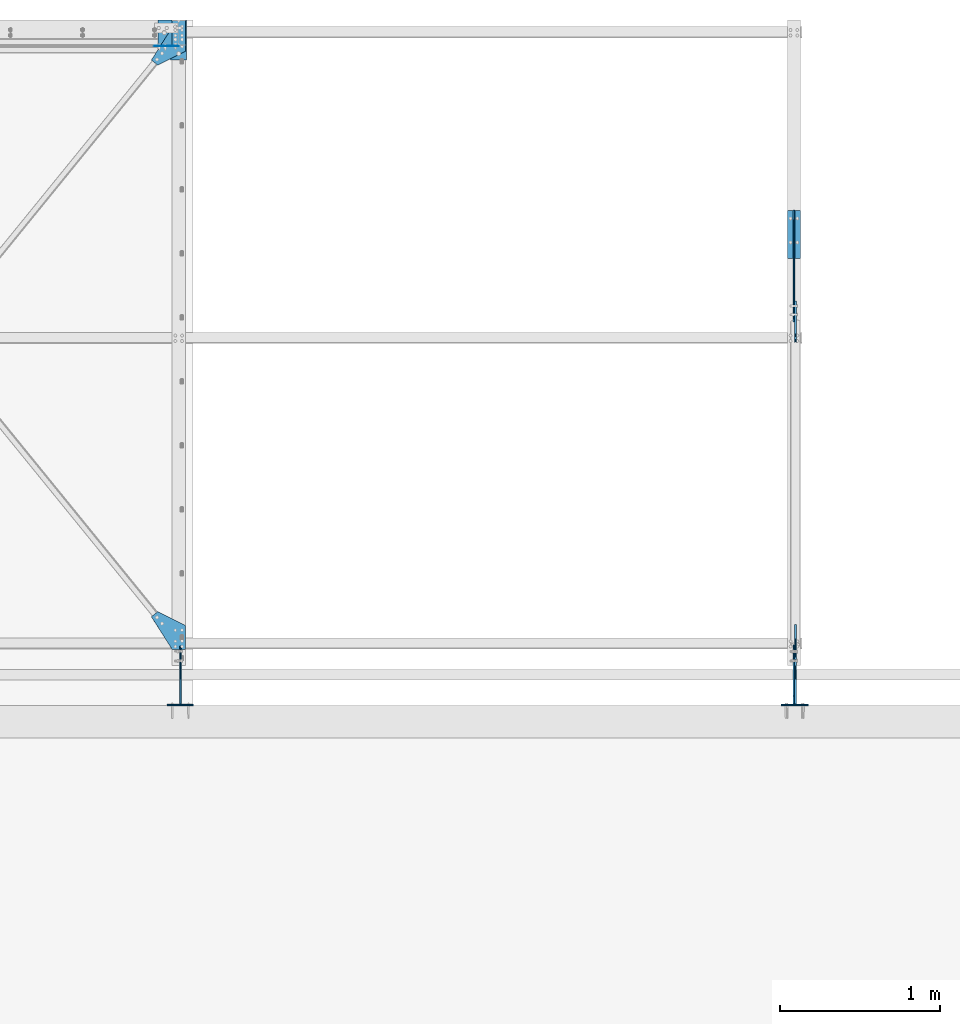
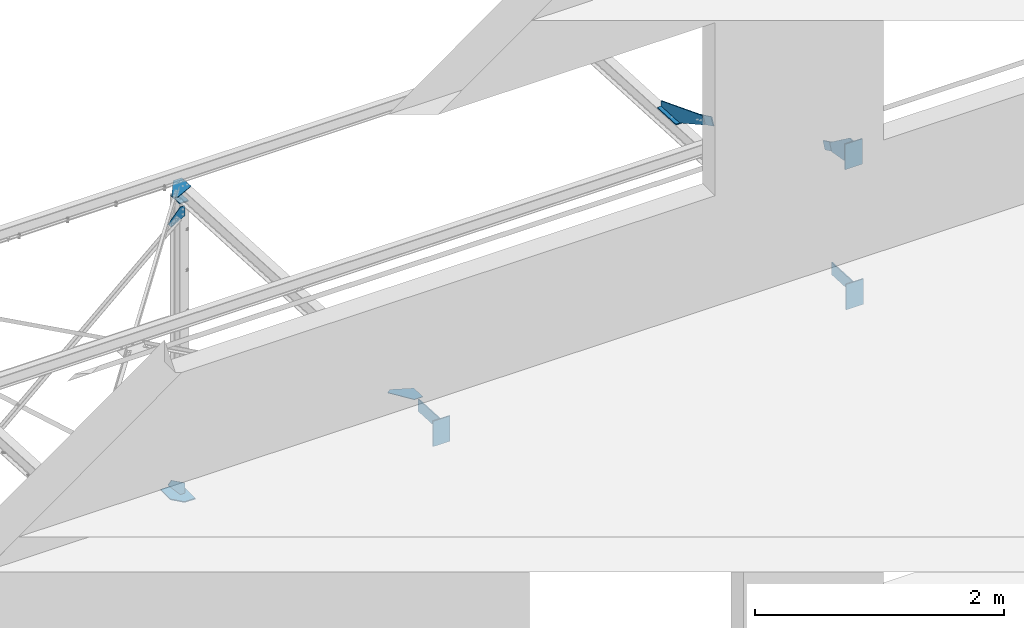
# One storey, part 116 of 362: 16 beams, 10 elements without a shape of their own.
"""IFC2X3 building model written with IfcOpenShell, lengths in millimetres."""

from ifc_helpers import new_model, si_unit, frame, frame_2d, origin_with_axes, origin_2d_with_axis, place, context, subcontext, project, spatial, polyline, circle_curve, parameter, trimmed, segment, composite_curve, rectangle, outline, extrude, material, type_object, element, aggregate, save


model = new_model("IFC2X3")

# Units and contexts
model_context = context("Model", 3, precision=1e-05, world=origin_with_axes())
body_context = subcontext(model_context, "Body", "Model", "MODEL_VIEW")
ifc_project = project(units=[si_unit("LENGTHUNIT", "METRE", prefix="MILLI"), si_unit("AREAUNIT", "SQUARE_METRE"), si_unit("VOLUMEUNIT", "CUBIC_METRE"), si_unit("MASSUNIT", "GRAM", prefix="KILO"), si_unit("TIMEUNIT", "SECOND"), si_unit("PLANEANGLEUNIT", "RADIAN"), si_unit("SOLIDANGLEUNIT", "STERADIAN"), si_unit("THERMODYNAMICTEMPERATUREUNIT", "DEGREE_CELSIUS"), si_unit("LUMINOUSINTENSITYUNIT", "LUMEN")], contexts=[model_context])

# Site, building, storey
site_placement = place(None, origin_with_axes())
site = spatial("IfcSite", under=ifc_project, at=site_placement, Name="Undefined", CompositionType="ELEMENT")
building_placement = place(site_placement, origin_with_axes())
building = spatial("IfcBuilding", under=site, at=building_placement, Name="Undefined", CompositionType="ELEMENT")
storey_placement = place(building_placement, origin_with_axes())
storey = spatial("IfcBuildingStorey", under=building, at=storey_placement, Name="Undefined", CompositionType="ELEMENT", Elevation=0.0)

# Assembly, beams
assembly_1_placement = place(storey_placement, origin_with_axes())
assembly_1 = element("IfcElementAssembly", 1, at=assembly_1_placement, inside=storey, AssemblyPlace="NOTDEFINED", PredefinedType="NOTDEFINED")
ifc_material_1 = material(Name="Undefined/S235-E24")
beam_type_1 = type_object("IfcBeamType", Name="PL10*80", PredefinedType="NOTDEFINED")
beam_1_placement = place(assembly_1_placement, frame((35852.9999699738, 27344.6103670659, 3273.4898292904), z_axis=(1.0, 0.0, 0.0), x_axis=(0.0, -0.431020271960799, -0.902342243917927)))
beam_1 = element("IfcBeam", 2, at=beam_1_placement, type_object=beam_type_1, material=ifc_material_1, Name="GOUSSET", ObjectType="PL10*80", context=body_context, shape_type="SweptSolid", body=[
    extrude(outline(composite_curve([segment(polyline([(0.0, 0.0), (80.00000000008, 8.00355337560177e-11), (80.0000000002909, 219.999999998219)]), True, "CONTINUOUS"), segment(trimmed(circle_curve(frame_2d((40.0000000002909, 219.999999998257), x_axis=(1.0, 0.0)), 40.0), [parameter(0.0)], [parameter(1.57079632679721)], True, "PARAMETER"), True, "CONTINUOUS"), segment(trimmed(circle_curve(frame_2d((40.0000000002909, 219.999999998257), x_axis=(0.0, 1.0)), 40.0), [parameter(0.0)], [parameter(1.57079632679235)], True, "PARAMETER"), True, "CONTINUOUS"), segment(polyline([(2.58576339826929e-10, 219.999999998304), (0.0, 0.0)]), True, "CONTINUOUS")], self_intersect=True)), frame((0.0, 0.0, -5.0), z_axis=(0.0, 0.0, 1.0), x_axis=(1.0, 0.0, 0.0)), (0.0, 0.0, 1.0), 10.0),
])
beam_2_placement = place(assembly_1_placement, frame((35852.999970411, 25546.3609699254, 4132.45653446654), z_axis=(-1.0, 0.0, 0.0), x_axis=(0.0, -0.431020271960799, -0.902342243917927)))
beam_2 = element("IfcBeam", 3, at=beam_2_placement, type_object=beam_type_1, material=ifc_material_1, Name="GOUSSET", ObjectType="PL10*80", context=body_context, shape_type="SweptSolid", body=[
    extrude(outline(composite_curve([segment(polyline([(0.0, 0.0), (80.00000000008, 8.00355337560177e-11), (80.0000000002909, 219.999999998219)]), True, "CONTINUOUS"), segment(trimmed(circle_curve(frame_2d((40.0000000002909, 219.999999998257), x_axis=(1.0, 0.0)), 40.0), [parameter(0.0)], [parameter(1.57079632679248)], True, "PARAMETER"), True, "CONTINUOUS"), segment(trimmed(circle_curve(frame_2d((40.0000000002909, 219.999999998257), x_axis=(0.0, 1.0)), 40.0), [parameter(0.0)], [parameter(1.57079632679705)], True, "PARAMETER"), True, "CONTINUOUS"), segment(polyline([(2.58576339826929e-10, 219.999999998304), (0.0, 0.0)]), True, "CONTINUOUS")], self_intersect=True)), frame((0.0, 0.0, -5.0), z_axis=(0.0, 0.0, 1.0), x_axis=(1.0, 0.0, 0.0)), (0.0, 0.0, 1.0), 10.0),
])
aggregate(assembly_1, [beam_1, beam_2])

# Assembly, beam
assembly_2_placement = place(storey_placement, origin_with_axes())
assembly_2 = element("IfcElementAssembly", 4, at=assembly_2_placement, inside=storey, AssemblyPlace="NOTDEFINED", PredefinedType="NOTDEFINED")
beam_type_2 = type_object("IfcBeamType", Name="PL5*157", PredefinedType="NOTDEFINED")
beam_3_placement = place(assembly_2_placement, frame((32002.9999702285, 29157.5000000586, 2549.99951437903), z_axis=(0.0, 1.0, 0.0), x_axis=(-0.872823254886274, 0.0, -0.488036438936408)))
beam_3 = element("IfcBeam", 5, at=beam_3_placement, type_object=beam_type_2, material=ifc_material_1, Name="GOUSSET", ObjectType="PL5*157", context=body_context, shape_type="SweptSolid", body=[
    extrude(outline(polyline([(0.0, 0.0), (141.322830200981, 6.18456397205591e-11), (152.248794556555, 48.7916336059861), (-13.0178709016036, 107.29185485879), (-48.8036422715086, 87.2823181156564), (0.0, 0.0)])), frame((0.0, 0.0, -2.5), z_axis=(0.0, 0.0, 1.0), x_axis=(1.0, 0.0, 0.0)), (0.0, 0.0, 1.0), 5.0),
])
aggregate(assembly_2, [beam_3])

assembly_3_placement = place(storey_placement, origin_with_axes())
assembly_3 = element("IfcElementAssembly", 6, at=assembly_3_placement, inside=storey, AssemblyPlace="NOTDEFINED", PredefinedType="NOTDEFINED")
beam_4_placement = place(assembly_3_placement, frame((32002.999970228, 29157.5000000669, -75.0000000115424), z_axis=(0.0, 1.0, 0.0), x_axis=(0.0, 0.0, -1.0)))
beam_4 = element("IfcBeam", 7, at=beam_4_placement, type_object=beam_type_2, material=ifc_material_1, Name="GOUSSET", ObjectType="PL5*157", context=body_context, shape_type="SweptSolid", body=[
    extrude(outline(polyline([(0.0, 0.0), (100.0, 0.0), (100.0, 40.9999923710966), (-31.7170257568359, 156.698348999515), (-68.9712295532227, 123.349815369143), (0.0, 0.0)])), frame((0.0, 0.0, -2.5), z_axis=(0.0, 0.0, 1.0), x_axis=(1.0, 0.0, 0.0)), (0.0, 0.0, 1.0), 5.0),
])
aggregate(assembly_3, [beam_4])

assembly_4_placement = place(storey_placement, origin_with_axes())
assembly_4 = element("IfcElementAssembly", 8, at=assembly_4_placement, inside=storey, Name="POTEAU", AssemblyPlace="NOTDEFINED", PredefinedType="NOTDEFINED")
beam_type_3 = type_object("IfcBeamType", Name="PL10*82", PredefinedType="NOTDEFINED")
beam_5_placement = place(assembly_4_placement, frame((32002.9999703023, 29316.6565777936, 2668.75845304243), z_axis=(1.0, 0.0, 0.0), x_axis=(0.0, -0.998630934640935, 0.0523092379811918)))
beam_5 = element("IfcBeam", 9, at=beam_5_placement, type_object=beam_type_3, material=ifc_material_1, Name="PLAT", ObjectType="PL10*82", context=body_context, shape_type="SweptSolid", body=[
    extrude(rectangle(XDim=10.0, YDim=82.0, at=origin_2d_with_axis()), frame((152.999350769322, 0.0, 0.0), z_axis=(-1.0, 0.0, 0.0), x_axis=(0.0, -1.0, 0.0)), (0.0, 0.0, 1.0), 153.0),
])

assembly_5_placement = place(storey_placement, origin_with_axes())
assembly_5 = element("IfcElementAssembly", 10, at=assembly_5_placement, inside=storey, AssemblyPlace="NOTDEFINED", PredefinedType="NOTDEFINED")
ifc_material_2 = material(Name="Undefined/S275-E28")
beam_6_placement = place(assembly_5_placement, frame((35842.9999696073, 27831.4545139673, 2916.78781044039), z_axis=(-1.0, 0.0, 0.0), x_axis=(-6.99999093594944e-09, 0.998630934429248, -0.0523092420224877)))
beam_6 = element("IfcBeam", 11, at=beam_6_placement, type_object=beam_type_3, material=ifc_material_2, Name="PLATINE", ObjectType="PL10*82", context=body_context, shape_type="SweptSolid", body=[
    extrude(rectangle(XDim=10.0, YDim=82.0, at=origin_2d_with_axis()), frame((300.0, 0.0, 0.0), z_axis=(-1.0, 0.0, 0.0), x_axis=(0.0, -1.0, 0.0)), (0.0, 0.0, 1.0), 300.0),
])

assembly_6_placement = place(storey_placement, origin_with_axes())
assembly_6 = element("IfcElementAssembly", 12, at=assembly_6_placement, inside=storey, AssemblyPlace="NOTDEFINED", PredefinedType="NOTDEFINED")
beam_type_4 = type_object("IfcBeamType", Name="PL5*211", PredefinedType="NOTDEFINED")
beam_7_placement = place(assembly_6_placement, frame((32043.9999390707, 25391.3625354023, 3039.5952929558), z_axis=(-3.30331196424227e-10, 0.0523092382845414, 0.998630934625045), x_axis=(-6.99999093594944e-09, 0.998630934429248, -0.0523092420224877)))
beam_7 = element("IfcBeam", 13, at=beam_7_placement, type_object=beam_type_4, material=ifc_material_1, Name="GOUSSET", ObjectType="PL5*211", context=body_context, shape_type="SweptSolid", body=[
    extrude(outline(polyline([(0.0, 0.0), (149.999999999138, -4.0381564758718e-10), (235.795623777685, 172.637481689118), (204.288955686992, 211.461837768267), (3.75086528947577e-07, 81.9999694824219), (0.0, 0.0)])), frame((0.0, 0.0, -2.5), z_axis=(0.0, 0.0, 1.0), x_axis=(1.0, 0.0, 0.0)), (0.0, 0.0, 1.0), 5.0),
])
aggregate(assembly_6, [beam_7])

assembly_7_placement = place(storey_placement, origin_with_axes())
assembly_7 = element("IfcElementAssembly", 14, at=assembly_7_placement, inside=storey, AssemblyPlace="NOTDEFINED", PredefinedType="NOTDEFINED")
beam_8_placement = place(assembly_7_placement, frame((32043.9999396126, 29124.0703911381, 2844.07250350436), z_axis=(-3.30331196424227e-10, 0.0523092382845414, 0.998630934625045), x_axis=(-6.99999093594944e-09, 0.998630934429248, -0.0523092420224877)))
beam_8 = element("IfcBeam", 15, at=beam_8_placement, type_object=beam_type_4, material=ifc_material_1, Name="GOUSSET", ObjectType="PL5*211", context=body_context, shape_type="SweptSolid", body=[
    extrude(outline(polyline([(0.0, 0.0), (149.999999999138, -4.0381564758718e-10), (149.999999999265, 81.9999618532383), (-54.2904396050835, 211.461868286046), (-85.7970886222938, 172.6375122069), (0.0, 0.0)])), frame((0.0, 0.0, -2.5), z_axis=(0.0, 0.0, 1.0), x_axis=(1.0, 0.0, 0.0)), (0.0, 0.0, 1.0), 5.0),
])
aggregate(assembly_7, [beam_8])

assembly_8_placement = place(storey_placement, origin_with_axes())
assembly_8 = element("IfcElementAssembly", 16, at=assembly_8_placement, inside=storey, AssemblyPlace="NOTDEFINED", PredefinedType="NOTDEFINED")
beam_type_5 = type_object("IfcBeamType", Name="PL10*160", PredefinedType="NOTDEFINED")
beam_9_placement = place(assembly_8_placement, frame((32012.9999703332, 25044.9999028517, 3050.00032752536), z_axis=(-1.0, 0.0, 0.0), x_axis=(0.0, 0.0, -1.0)))
beam_9 = element("IfcBeam", 17, at=beam_9_placement, type_object=beam_type_5, material=ifc_material_2, Name="PLATINE", ObjectType="PL10*160", context=body_context, shape_type="SweptSolid", body=[
    extrude(rectangle(XDim=10.0, YDim=160.0, at=origin_2d_with_axis()), frame((249.999999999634, 3.6379788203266e-12, 0.0), z_axis=(-1.0, 0.0, 0.0), x_axis=(0.0, -1.0, 0.0)), (0.0, 0.0, 1.0), 250.0),
])

assembly_9_placement = place(storey_placement, origin_with_axes())
assembly_9 = element("IfcElementAssembly", 18, at=assembly_9_placement, inside=storey, AssemblyPlace="NOTDEFINED", PredefinedType="NOTDEFINED")
beam_10_placement = place(assembly_9_placement, frame((35842.9999703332, 25044.9999026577, 4430.00032752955), z_axis=(-1.0, 0.0, 0.0), x_axis=(0.0, 0.0, -1.0)))
beam_10 = element("IfcBeam", 19, at=beam_10_placement, type_object=beam_type_5, material=ifc_material_2, Name="PLATINE", ObjectType="PL10*160", context=body_context, shape_type="SweptSolid", body=[
    extrude(rectangle(XDim=10.0, YDim=160.0, at=origin_2d_with_axis()), frame((249.999999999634, 3.6379788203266e-12, 0.0), z_axis=(-1.0, 0.0, 0.0), x_axis=(0.0, -1.0, 0.0)), (0.0, 0.0, 1.0), 250.0),
])

assembly_10_placement = place(storey_placement, origin_with_axes())
assembly_10 = element("IfcElementAssembly", 20, at=assembly_10_placement, inside=storey, AssemblyPlace="NOTDEFINED", PredefinedType="NOTDEFINED")
beam_11_placement = place(assembly_10_placement, frame((35852.9999703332, 25044.999902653, 3050.00032752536), z_axis=(-1.0, 0.0, 0.0), x_axis=(0.0, 0.0, -1.0)))
beam_11 = element("IfcBeam", 21, at=beam_11_placement, type_object=beam_type_5, material=ifc_material_2, Name="PLATINE", ObjectType="PL10*160", context=body_context, shape_type="SweptSolid", body=[
    extrude(rectangle(XDim=10.0, YDim=160.0, at=origin_2d_with_axis()), frame((249.999999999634, 3.6379788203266e-12, 0.0), z_axis=(-1.0, 0.0, 0.0), x_axis=(0.0, -1.0, 0.0)), (0.0, 0.0, 1.0), 250.0),
])

# Beam
beam_type_6 = type_object("IfcBeamType", Name="PL10*360", PredefinedType="NOTDEFINED")
beam_12_placement = place(assembly_8_placement, frame((32012.9999703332, 25409.9999999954, 2898.42711388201), z_axis=(-1.0, 0.0, 0.0), x_axis=(0.0, -0.998630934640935, 0.0523092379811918)))
beam_12 = element("IfcBeam", 22, at=beam_12_placement, type_object=beam_type_6, material=ifc_material_1, Name="GOUSSET", ObjectType="PL10*360", context=body_context, shape_type="SweptSolid", body=[
    extrude(outline(polyline([(0.0, 0.0), (230.315322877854, 6.41193764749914e-10), (334.385864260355, -116.077178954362), (354.358612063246, -117.123367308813), (366.779327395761, 120.000000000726), (6.28570985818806, 120.000007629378), (0.0, 0.0)])), frame((0.0, 0.0, -5.0), z_axis=(0.0, 0.0, 1.0), x_axis=(1.0, 0.0, 0.0)), (0.0, 0.0, 1.0), 10.0),
])

aggregate(assembly_8, [beam_9, beam_12])

beam_13_placement = place(assembly_10_placement, frame((35852.9999703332, 25409.9999997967, 2898.42711388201), z_axis=(-1.0, 0.0, 0.0), x_axis=(0.0, -0.998630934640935, 0.0523092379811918)))
beam_13 = element("IfcBeam", 23, at=beam_13_placement, type_object=beam_type_6, material=ifc_material_1, Name="GOUSSET", ObjectType="PL10*360", context=body_context, shape_type="SweptSolid", body=[
    extrude(outline(polyline([(0.0, 0.0), (230.315322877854, 6.41193764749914e-10), (334.385864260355, -116.077178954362), (354.358612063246, -117.123367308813), (366.779327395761, 120.000000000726), (6.28570985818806, 120.000007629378), (0.0, 0.0)])), frame((0.0, 0.0, -5.0), z_axis=(0.0, 0.0, 1.0), x_axis=(1.0, 0.0, 0.0)), (0.0, 0.0, 1.0), 10.0),
])

aggregate(assembly_10, [beam_13, beam_11])

beam_type_7 = type_object("IfcBeamType", Name="PL10*370", PredefinedType="NOTDEFINED")
beam_14_placement = place(assembly_9_placement, frame((35842.9999704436, 25420.0330798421, 4192.79936103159), z_axis=(-1.0, 0.0, 0.0), x_axis=(0.0, -0.431020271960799, -0.902342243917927)))
beam_14 = element("IfcBeam", 24, at=beam_14_placement, type_object=beam_type_7, material=ifc_material_1, Name="GOUSSET", ObjectType="PL10*370", context=body_context, shape_type="SweptSolid", body=[
    extrude(outline(polyline([(0.0, 0.0), (80.00000000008, 8.00355337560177e-11), (171.041168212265, 328.379669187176), (-54.5444107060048, 436.134674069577), (-76.0954055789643, 391.01763915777), (0.0, 0.0)])), frame((0.0, 0.0, -5.0), z_axis=(0.0, 0.0, 1.0), x_axis=(1.0, 0.0, 0.0)), (0.0, 0.0, 1.0), 10.0),
])

aggregate(assembly_9, [beam_14, beam_10])

beam_type_8 = type_object("IfcBeamType", Name="PL10*141", PredefinedType="NOTDEFINED")
beam_15_placement = place(assembly_5_placement, frame((35842.9999699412, 27470.9383052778, 3213.14697970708), z_axis=(1.0, 0.0, 0.0), x_axis=(0.0, -0.431020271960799, -0.902342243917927)))
beam_15 = element("IfcBeam", 25, at=beam_15_placement, type_object=beam_type_8, material=ifc_material_1, Name="GOUSSET", ObjectType="PL10*141", context=body_context, shape_type="SweptSolid", body=[
    extrude(outline(polyline([(0.0, 0.0), (80.00000000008, 8.00355337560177e-11), (107.409339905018, 451.129669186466), (-7.55942726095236, 728.22570800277), (-53.7421607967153, 709.064208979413), (0.0, 0.0)])), frame((0.0, 0.0, -5.0), z_axis=(0.0, 0.0, 1.0), x_axis=(1.0, 0.0, 0.0)), (0.0, 0.0, 1.0), 10.0),
])

aggregate(assembly_5, [beam_6, beam_15])

beam_type_9 = type_object("IfcBeamType", Name="TOLE10*180", PredefinedType="NOTDEFINED")
beam_16_placement = place(assembly_4_placement, frame((31872.9949962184, 29320.0000661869, -195.0), z_axis=(0.0, 0.0, -1.0), x_axis=(1.0, 0.0, 0.0)))
beam_16 = element("IfcBeam", 26, at=beam_16_placement, type_object=beam_type_9, material=ifc_material_1, Name="PLATINE", ObjectType="TOLE10*180", context=body_context, shape_type="SweptSolid", body=[
    extrude(outline(polyline([(0.0, 0.0), (180.000061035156, 0.0), (180.0, 250.0), (80.0, 250.0), (0.0, 159.999984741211), (0.0, 0.0)])), frame((0.0, 0.0, -5.0), z_axis=(0.0, 0.0, 1.0), x_axis=(1.0, 0.0, 0.0)), (0.0, 0.0, 1.0), 10.0),
])

aggregate(assembly_4, [beam_5, beam_16])

save(model, "model.ifc")
